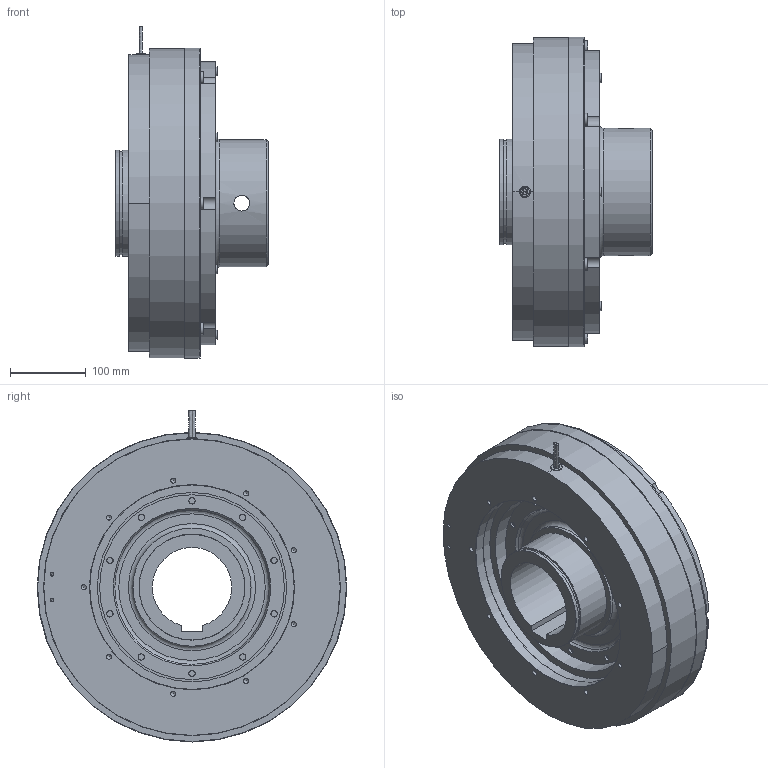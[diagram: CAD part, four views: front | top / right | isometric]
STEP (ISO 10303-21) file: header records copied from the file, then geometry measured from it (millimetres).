
FILE_DESCRIPTION(/* description */ (''),/* implementation_level */ '2;1');
FILE_NAME(/* name */ 'X:\INVENTOR\DISEGNI\08_Freni_Friz_Elettmag_Monodisco\08_26 EMSL_DF\EMSL_DF STEP\08_26_400_22 EMSL400_DF-BM-ME@STEP.stp',/* time_stamp */ '2018-04-24T09:09:15+02:00',/* author */ ('stefano'),/* organization */ (''),/* preprocessor_version */ 'ST-DEVELOPER v17',/* originating_system */ 'Autodesk Inventor 2018',/* authorisation */ '');
FILE_SCHEMA (('AUTOMOTIVE_DESIGN { 1 0 10303 214 3 1 1 }'));
Length unit declared in the file: millimetre
Products named in the file (1): 08_26_400_22 EMSL400_DF-BM-ME_Substitute_1
Bounding box: 201.5 x 409 x 438.52 mm (x, y, z)
Volume: 10142791 mm3; surface area: 1236918.9 mm2
Topology: 3 solids, 3 shells, 648 faces, 1903 edges, 1302 vertices
Faces by surface type: cylinder 326, plane 227, cone 72, torus 20, bspline 3
Full cylindrical faces by diameter (mm): 3 x12, 4.917 x2, 6.647 x9, 8.376 x10, 12 x6, 15 x1, 16 x22, 17.8 x12, 18 x18, 20.752 x2, 55 x6, 68 x6, 136 x1, 140 x2, 156 x1, 168 x1, 205 x1, 244 x1, 250 x2, 260 x1, 270 x2, 270.3 x1, 271.1 x1, 306 x1, 376 x1, 392.4 x1, 408 x1, 409 x2
Entity records: 23175 total; most frequent: CARTESIAN_POINT 4471, DIRECTION 4169, ORIENTED_EDGE 3756, EDGE_CURVE 1878, AXIS2_PLACEMENT_3D 1779, VERTEX_POINT 1302, CIRCLE 1133, EDGE_LOOP 856
